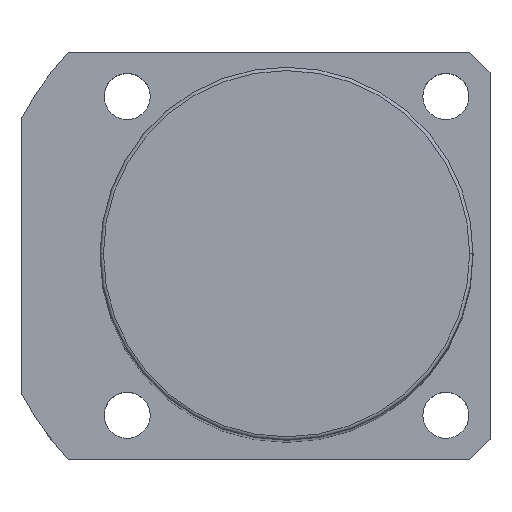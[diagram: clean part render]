
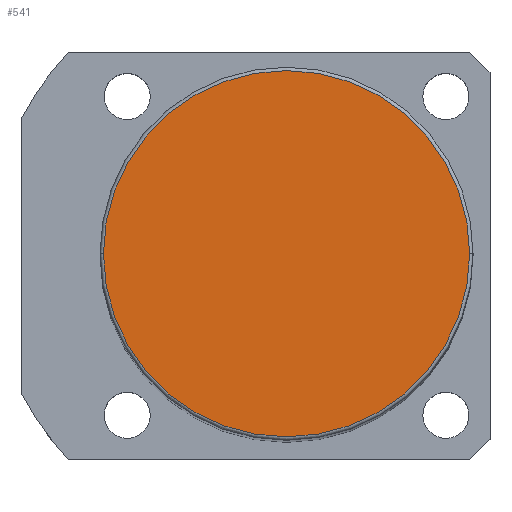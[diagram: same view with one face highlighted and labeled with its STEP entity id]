
A CAD part, top view. The second image highlights one B-rep face of the part: STEP entity #541.
In plain terms, the highlighted planar face has unit normal (0, 0, 1).
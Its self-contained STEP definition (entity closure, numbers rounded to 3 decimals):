
#81 = CIRCLE ( 'NONE', #1553, 27. ) ;
#290 = FACE_OUTER_BOUND ( 'NONE', #1682, .T. ) ;
#403 = EDGE_CURVE ( 'NONE', #1783, #1498, #81, .T. ) ;
#418 = CARTESIAN_POINT ( 'NONE',  ( -27., 0., 191. ) ) ;
#471 = DIRECTION ( 'NONE',  ( 1., 0., 0. ) ) ;
#541 = ADVANCED_FACE ( 'NONE', ( #290 ), #987, .T. ) ;
#615 = DIRECTION ( 'NONE',  ( 1., 0., 0. ) ) ;
#655 = CARTESIAN_POINT ( 'NONE',  ( 27., 0., 191. ) ) ;
#803 = CARTESIAN_POINT ( 'NONE',  ( 0., 0., 191. ) ) ;
#847 = EDGE_CURVE ( 'NONE', #1498, #1783, #1213, .T. ) ;
#850 = DIRECTION ( 'NONE',  ( 1., 0., 0. ) ) ;
#987 = PLANE ( 'NONE',  #1954 ) ;
#1158 = DIRECTION ( 'NONE',  ( 0., 0., 1. ) ) ;
#1213 = CIRCLE ( 'NONE', #1927, 27. ) ;
#1235 = ORIENTED_EDGE ( 'NONE', *, *, #403, .T. ) ;
#1380 = DIRECTION ( 'NONE',  ( 0., 0., 1. ) ) ;
#1390 = CARTESIAN_POINT ( 'NONE',  ( 0., 0., 191. ) ) ;
#1447 = ORIENTED_EDGE ( 'NONE', *, *, #847, .T. ) ;
#1498 = VERTEX_POINT ( 'NONE', #655 ) ;
#1553 = AXIS2_PLACEMENT_3D ( 'NONE', #803, #1380, #471 ) ;
#1682 = EDGE_LOOP ( 'NONE', ( #1447, #1235 ) ) ;
#1698 = DIRECTION ( 'NONE',  ( 0., 0., 1. ) ) ;
#1746 = CARTESIAN_POINT ( 'NONE',  ( 0., 0., 191. ) ) ;
#1783 = VERTEX_POINT ( 'NONE', #418 ) ;
#1927 = AXIS2_PLACEMENT_3D ( 'NONE', #1390, #1698, #615 ) ;
#1954 = AXIS2_PLACEMENT_3D ( 'NONE', #1746, #1158, #850 ) ;
